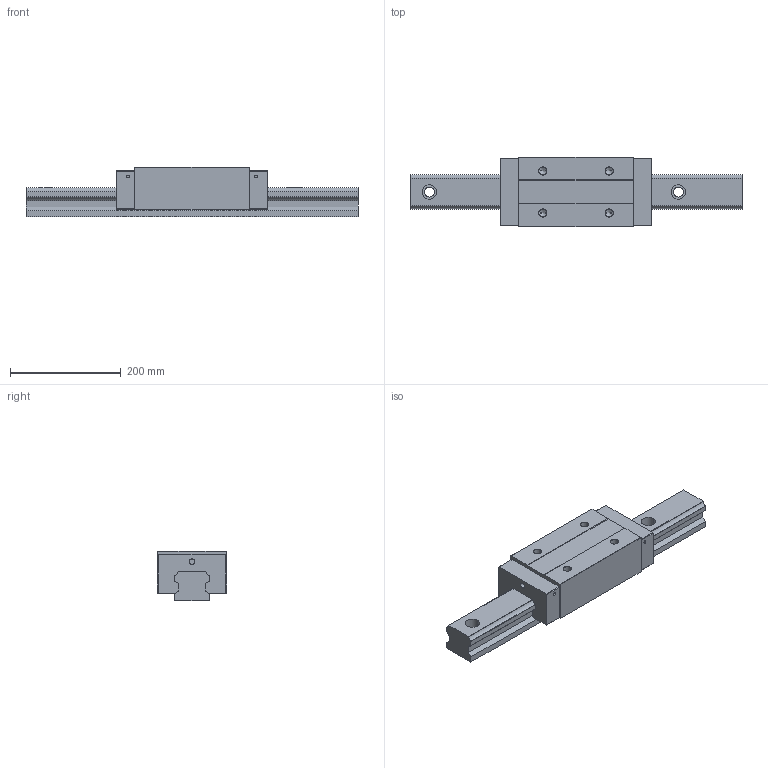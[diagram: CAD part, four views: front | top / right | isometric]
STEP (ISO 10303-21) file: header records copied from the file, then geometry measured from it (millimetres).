
FILE_DESCRIPTION (( 'STEP AP203' ), '1' );
FILE_NAME ('TRH65VE-SZ.STEP', '2024-07-10T02:44:49', ( '' ), ( '' ), 'SwSTEP 2.0', 'SolidWorks 2022', '' );
FILE_SCHEMA (( 'CONFIG_CONTROL_DESIGN' ));
Length unit declared in the file: millimetre
Products named in the file (1): TRH65VE-SZ
Bounding box: 600 x 126 x 90 mm (x, y, z)
Volume: 3636371.3 mm3; surface area: 314186.9 mm2
Topology: 2 solids, 2 shells, 170 faces, 448 edges, 288 vertices
Faces by surface type: plane 82, cylinder 72, cone 16
Entity records: 5299 total; most frequent: DIRECTION 934, CARTESIAN_POINT 899, ORIENTED_EDGE 880, EDGE_CURVE 440, AXIS2_PLACEMENT_3D 323, VERTEX_POINT 288, LINE 288, VECTOR 288
